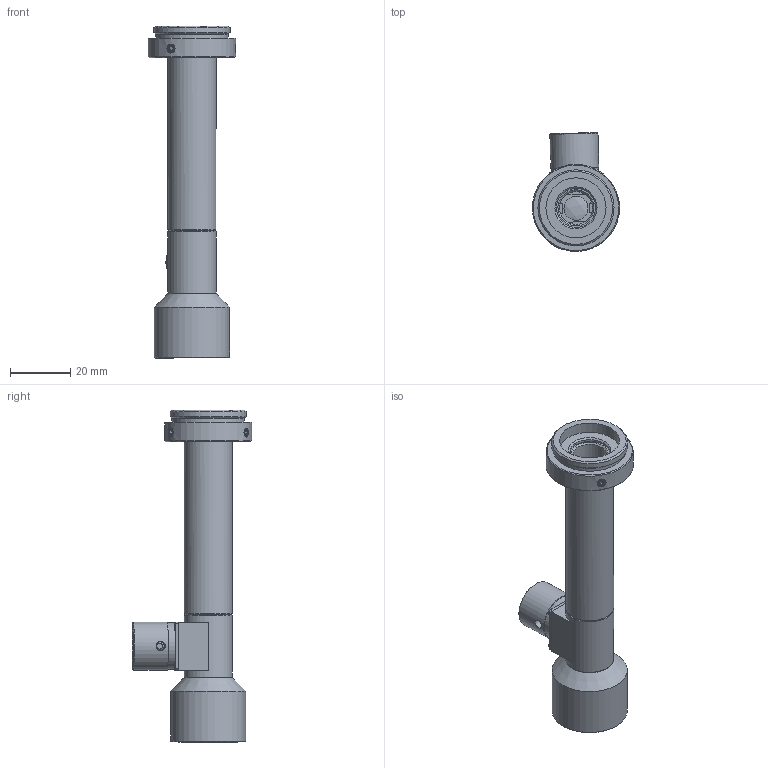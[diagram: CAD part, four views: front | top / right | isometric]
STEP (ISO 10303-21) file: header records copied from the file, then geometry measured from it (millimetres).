
FILE_DESCRIPTION(('STEP AP214'),'1');
FILE_NAME('RTK-3F-M65.stp','2026-07-31T08:31:17',(' '),(' '),'Spatial InterOp 3D',' ',' ');
FILE_SCHEMA(('AUTOMOTIVE_DESIGN { 1 0 10303 214 1 1 1 1 }'));
Length unit declared in the file: metre
Products named in the file (2): RTK-3F-M65; Component1
Assembly tree (1 placements, depth 2):
  RTK-3F-M65
    Component1
Bounding box: 29.02 x 39.7 x 110.45 mm (x, y, z)
Volume: 20329.6 mm3; surface area: 15998.2 mm2
Topology: 1 solids, 13 shells, 350 faces, 838 edges, 550 vertices
Faces by surface type: plane 169, cone 90, cylinder 74, torus 8, sphere 6, bspline 3
Full cylindrical faces by diameter (mm): 1.7 x8, 1.8 x4, 2.5 x3, 3 x3, 6.5 x1, 8 x2, 9 x1, 10 x1, 11 x1, 12.7 x1, 13 x2, 13.4 x1, 13.7 x1, 14 x2, 14.2 x3, 15.5 x1, 16 x7, 17.5 x2, 18 x1, 18.5 x1, 20 x1, 21 x2, 21.8 x1, 24.12 x1, 25 x1, 25.32 x1, 29 x1
Entity records: 12700 total; most frequent: CARTESIAN_POINT 2434, DIRECTION 1588, ORIENTED_EDGE 1316, AXIS2_PLACEMENT_3D 668, EDGE_CURVE 658, EDGE_LOOP 522, VERTEX_POINT 493, FACE_OUTER_BOUND 415
